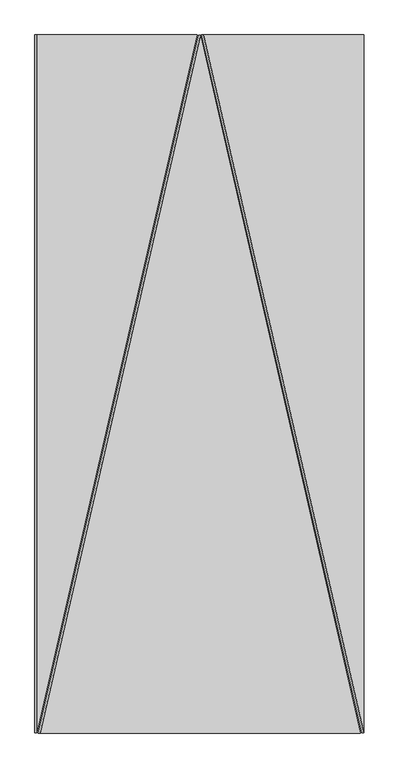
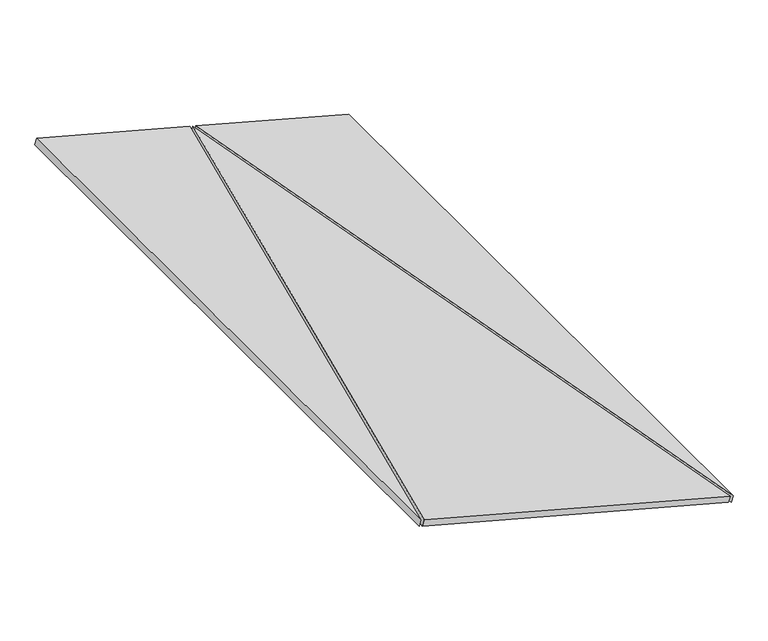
"""IFC4 building model written with IfcOpenShell, lengths in millimetres: proxy geometry, panel sufitowy 6 : panel sufitowy 6."""

from ifc_helpers import new_model, si_unit, frame, origin, place, context, project, spatial, polyline, outline, extrude, source, transform, mapped, element, save


def generic_models_c0e9c4ef(model_context):
    return source(origin(), model_context, "Body", "SweptSolid", [
        extrude(outline(polyline([(-900.9098917, 0.0), (1006.1909889, 962.7191946), (1235.4098448, 1e-07), (-900.9098917, 0.0)])), frame((527.6382688, 1457.4151922, 1042.5770253), z_axis=(0.25881904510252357, 0.0, 0.9659258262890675), x_axis=(-0.22372824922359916, -0.9728062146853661, 0.05994780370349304)), (0.0, 0.0, 1.0), 20.0),
        extrude(outline(polyline([(-127.4999999, 0.0), (-127.4999999, -2079.0), (-622.5, 0.0), (-127.4999999, 0.0)])), frame((1339.8753322, 2335.0, 824.9387601), z_axis=(0.25881904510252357, 0.0, 0.9659258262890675), x_axis=(0.9659258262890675, 0.0, -0.25881904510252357)), (0.0, 0.0, 1.0), 20.0),
        extrude(outline(polyline([(-127.5, 0.0), (-622.5, 0.0), (-127.5, 2079.0), (-127.5, 0.0)])), frame((117.9791619, 2335.0, 1152.3448521), z_axis=(0.25881904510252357, 0.0, 0.9659258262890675), x_axis=(-0.9659258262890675, 0.0, 0.25881904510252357)), (0.0, 0.0, 1.0), 20.0),
    ])


if __name__ == "__main__":
    model = new_model("IFC4")
    model_context = context("Model", 3, world=origin())
    ifc_project = project(units=[si_unit("LENGTHUNIT", "METRE", prefix="MILLI")], contexts=[model_context])
    site = spatial("IfcSite", under=ifc_project)
    building = spatial("IfcBuilding", under=site)
    placement = place(None, origin())
    generic_models_shape = generic_models_c0e9c4ef(model_context)
    element("IfcBuildingElementProxy", 1, Name="panel sufitowy 6 : panel sufitowy 6", ObjectType="panel sufitowy 6 : panel sufitowy 6", at=placement, inside=building, context=model_context, shape_type="MappedRepresentation", body=[
        mapped(generic_models_shape, transform((0.0, 0.0, 0.0), x_axis=(1.0, 0.0, 0.0), y_axis=(0.0, 1.0, 0.0), z_axis=(0.0, 0.0, 1.0))),
    ])
    save(model, "model.ifc")
